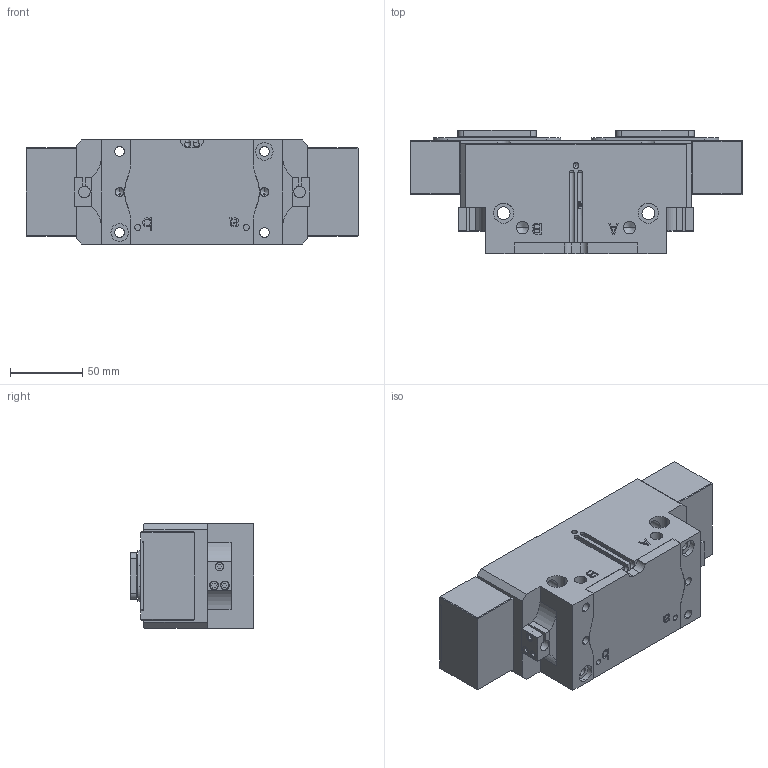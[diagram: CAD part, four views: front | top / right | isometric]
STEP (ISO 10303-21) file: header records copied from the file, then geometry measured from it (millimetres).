
FILE_DESCRIPTION (( 'STEP AP214' ), '1' );
FILE_NAME ('FPT 160A-1-SD.STEP', '2021-09-18T04:42:38', ( 'DEEP' ), ( 'Microsoft' ), 'SwSTEP 2.0', 'SolidWorks 2016', '' );
FILE_SCHEMA (( 'AUTOMOTIVE_DESIGN' ));
Length unit declared in the file: millimetre
Products named in the file (25): FPT 160A-1-SD-004; FPT 160A-1-004; FPT 160A-1-005; FPT 160A-1-001; FPT 160A-1-002; FPT 160A-1-003; FPT 160A-1-SD; FPT160A-11-SD; FPT 160A-1-SD-001; FPT 160A-1-SD-002; FPT 160A-1-SD-003
Assembly tree (15 placements, depth 3):
  FPT 160A-1-SD-004
  FPT 160A-1-004
  FPT 160A-1-004
  FPT 160A-1-005
  FPT 160A-1-001
Bounding box: 229.2 x 85.4 x 72 mm (x, y, z)
Volume: 939236.3 mm3; surface area: 186064.8 mm2
Topology: 14 solids, 14 shells, 778 faces, 2036 edges, 1303 vertices
Faces by surface type: plane 461, cylinder 231, cone 80, bspline 6
Entity records: 22426 total; most frequent: CARTESIAN_POINT 4279, DIRECTION 3306, ORIENTED_EDGE 3276, EDGE_CURVE 1638, VECTOR 1178, LINE 1178, VERTEX_POINT 1073, AXIS2_PLACEMENT_3D 1064
